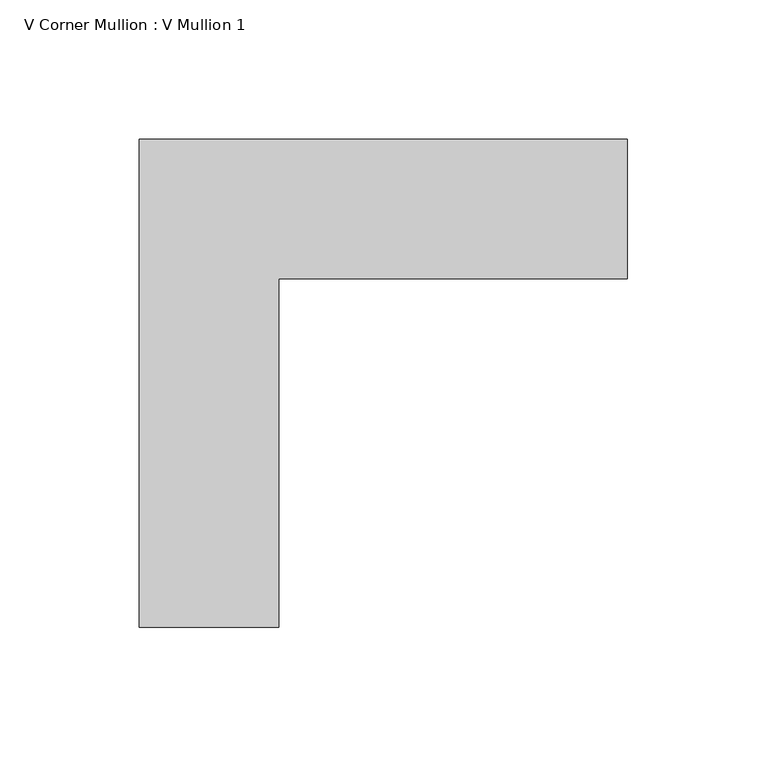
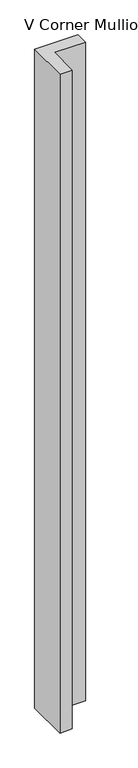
"""IFC4 building model written with IfcOpenShell, lengths in millimetres: member geometry, V Corner Mullion : V Mullion 1."""

from ifc_helpers import new_model, si_unit, frame, origin, place, context, project, spatial, polyline, outline, extrude, source, transform, mapped, element, save


def v_corner_mullion_v_mullion_1_1f1fc5c4(model_context):
    return source(origin(), model_context, "Body", "SweptSolid", [
        extrude(outline(polyline([(75.0, 50.0), (-50.0, 50.0), (-50.0, -75.0), (-100.0, -75.0), (-100.0, 100.0), (75.0, 100.0), (75.0, 50.0)])), frame((0.0, 0.0, -2800.0), z_axis=(0.0, 0.0, 1.0), x_axis=(1.0, 0.0, 0.0)), (0.0, 0.0, 1.0), 2800.0),
    ])


if __name__ == "__main__":
    model = new_model("IFC4")
    model_context = context("Model", 3, world=origin())
    ifc_project = project(units=[si_unit("LENGTHUNIT", "METRE", prefix="MILLI")], contexts=[model_context])
    site = spatial("IfcSite", under=ifc_project)
    building = spatial("IfcBuilding", under=site)
    placement = place(None, origin())
    v_corner_mullion_v_mullion_1_shape = v_corner_mullion_v_mullion_1_1f1fc5c4(model_context)
    element("IfcMember", 1, ObjectType="V Corner Mullion : V Mullion 1", at=placement, inside=building, context=model_context, shape_type="MappedRepresentation", body=[
        mapped(v_corner_mullion_v_mullion_1_shape, transform((0.0, 0.0, 0.0), x_axis=(1.0, 0.0, 0.0), y_axis=(0.0, 1.0, 0.0), z_axis=(0.0, 0.0, 1.0))),
    ])
    save(model, "model.ifc")
